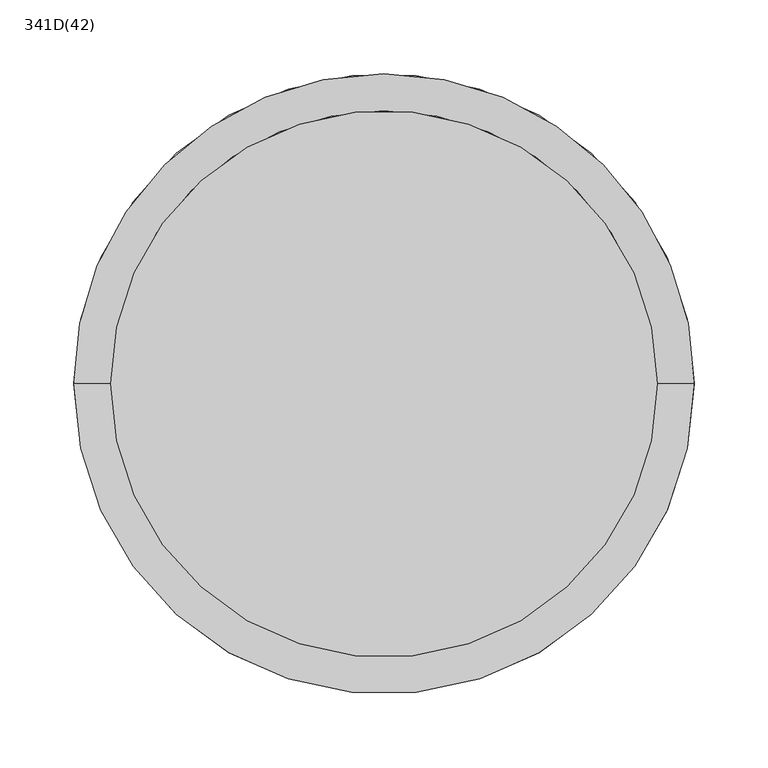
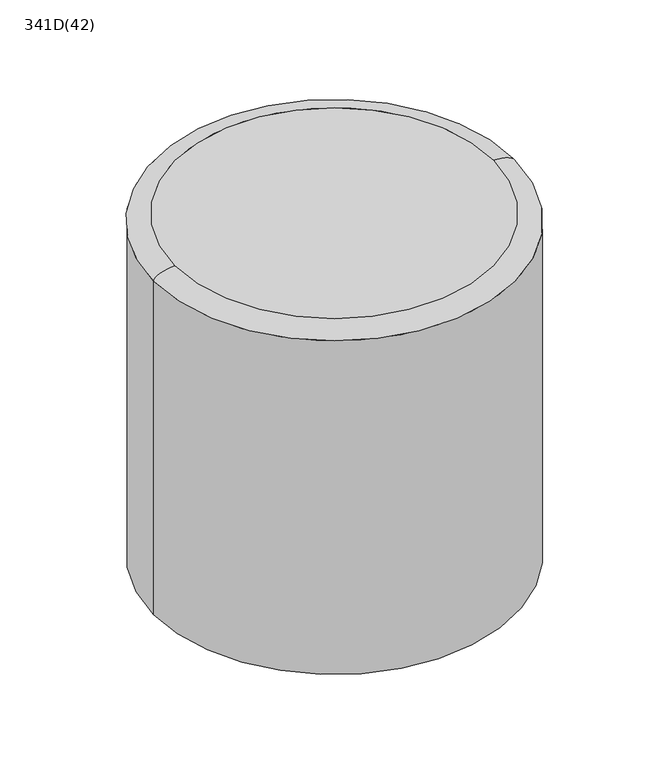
"""IFC4 building model written with IfcOpenShell, lengths in millimetres: furniture geometry, Bit Round : 341D(42)."""

from ifc_helpers import new_model, si_unit, point, frame, origin, origin_with_axes, origin_2d, place, context, project, spatial, circle_curve, ellipse_curve, trimmed, segment, composite_curve, outline, extrude, source, transform, mapped, element, save
from ifc_brep_helpers import plane_surface, revolved_surface, advanced_brep


def furniture_341d_42_66ac4a3a(model_context):
    return source(origin(), model_context, "Body", "SolidModel", [
        advanced_brep(
        [(-185.0, 0.0, 420.0), (185.0, 0.0, 420.0), (-210.0, 0.0, 410.0), (210.0, 0.0, 410.0)],
        [
            (0, 1, circle_curve(frame((0.0, 0.0, 420.0), z_axis=(0.0, 0.0, 1.0), x_axis=(1.0, 0.0, 0.0)), 185.0)),
            (1, 0, circle_curve(frame((0.0, 0.0, 420.0), z_axis=(0.0, 0.0, 1.0), x_axis=(-1.0, 0.0, 0.0)), 185.0)),
            (2, 3, circle_curve(frame((0.0, 0.0, 410.0), z_axis=(0.0, 0.0, 1.0), x_axis=(1.0, 0.0, 0.0)), 210.0)),
            (3, 1, ellipse_curve(frame((185.0, 0.0, 410.0), z_axis=(0.0, -1.0, 0.0), x_axis=(1.0, 0.0, 0.0)), 25.0, 10.0)),
            (0, 2, ellipse_curve(frame((-185.0, 0.0, 410.0), z_axis=(0.0, -1.0, 0.0), x_axis=(-1.0, 0.0, 0.0)), 25.0, 10.0)),
            (3, 2, circle_curve(frame((0.0, 0.0, 410.0), z_axis=(0.0, 0.0, 1.0), x_axis=(-1.0, 0.0, 0.0)), 210.0)),
        ],
        [
            plane_surface(frame((185.0, 0.0, 420.0), z_axis=(0.0, 0.0, 1.0), x_axis=(0.0, 1.0, 0.0))),
            revolved_surface(trimmed(ellipse_curve(frame((185.0, 0.0, 410.0), z_axis=(0.0, 1.0, 0.0), x_axis=(1.0, 0.0, 0.0)), 25.0, 10.0), [point((185.0, 0.0, 420.0))], [point((210.0, 0.0, 410.0))], True, "CARTESIAN"), (0.0, 0.0, 420.0), (0.0, 0.0, -1.0)),
            revolved_surface(trimmed(ellipse_curve(frame((-185.0, 0.0, 410.0), z_axis=(0.0, -1.0, 0.0), x_axis=(-1.0, 0.0, 0.0)), 25.0, 10.0), [point((-185.0, 0.0, 420.0))], [point((-210.0, 0.0, 410.0))], True, "CARTESIAN"), (0.0, 0.0, 420.0), (0.0, 0.0, -1.0)),
            plane_surface(frame((0.0, 0.0, 410.0), z_axis=(0.0, 0.0, -1.0), x_axis=(-1.0, 0.0, 0.0))),
        ],
        [
            (0, [[1, 2]]),
            (1, [[3, 4, -1, 5]]),
            (2, [[-4, 6, -5, -2]]),
            (3, [[-3, -6]]),
        ],
    ),
        extrude(outline(composite_curve([segment(trimmed(circle_curve(origin_2d(), 210.0), [point((-210.0, 0.0))], [point((210.0, 0.0))], False, "CARTESIAN"), True, "CONTINUOUS"), segment(trimmed(circle_curve(origin_2d(), 210.0), [point((210.0, 0.0))], [point((-210.0, 0.0))], False, "CARTESIAN"), True, "CONTINUOUS")], self_intersect=False)), origin_with_axes(), (0.0, 0.0, 1.0), 410.0),
    ])


if __name__ == "__main__":
    model = new_model("IFC4")
    model_context = context("Model", 3, world=origin())
    ifc_project = project(units=[si_unit("LENGTHUNIT", "METRE", prefix="MILLI")], contexts=[model_context])
    site = spatial("IfcSite", under=ifc_project)
    building = spatial("IfcBuilding", under=site)
    placement = place(None, origin())
    furniture_341d_42_shape = furniture_341d_42_66ac4a3a(model_context)
    element("IfcFurniture", 1, ObjectType="Bit Round : 341D(42)", at=placement, inside=building, context=model_context, shape_type="MappedRepresentation", body=[
        mapped(furniture_341d_42_shape, transform((0.0, 0.0, 0.0), x_axis=(1.0, 0.0, 0.0), y_axis=(0.0, 1.0, 0.0), z_axis=(0.0, 0.0, 1.0))),
    ])
    save(model, "model.ifc")
